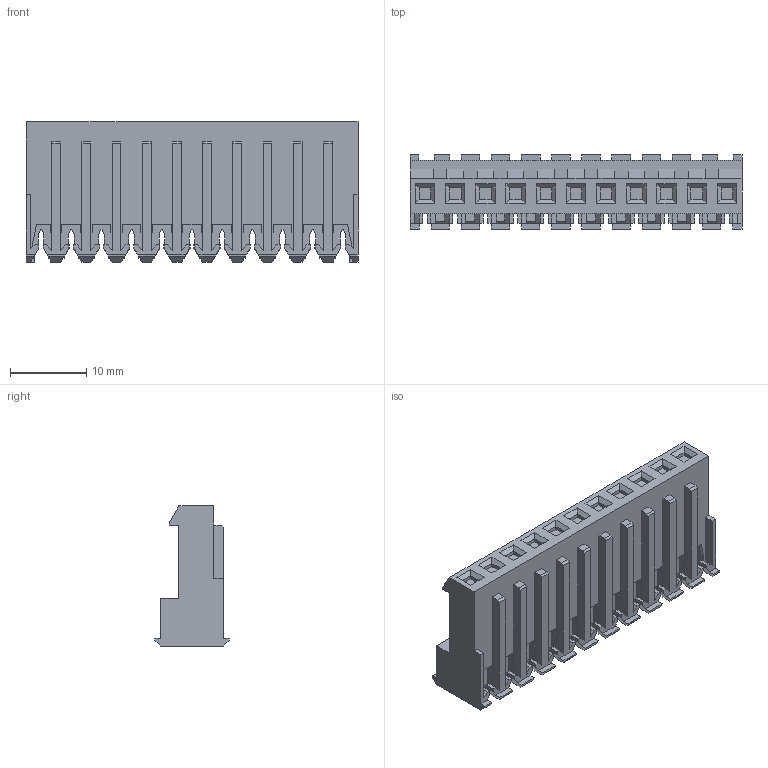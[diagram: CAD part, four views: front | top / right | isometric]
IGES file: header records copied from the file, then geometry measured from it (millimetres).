
Start section:  PTC IGES file: c-1-640599-1-m-3d.igs
Global section: file name: c-1-640599-1-m-3d.igs; native system: Pro/ENGINEER by Parametric Technology Corporation; preprocessor: 2010430; author: workeradm; organization: Unknown; units: millimetre
Bounding box: 43.59 x 9.78 x 18.41 mm (x, y, z)
Surface area: 4599.3 mm2 (no closed solid volume)
Topology: 0 solids, 0 shells, 1216 faces, 7128 edges, 7128 vertices
Faces by surface type: bspline 1117, revolution 99
